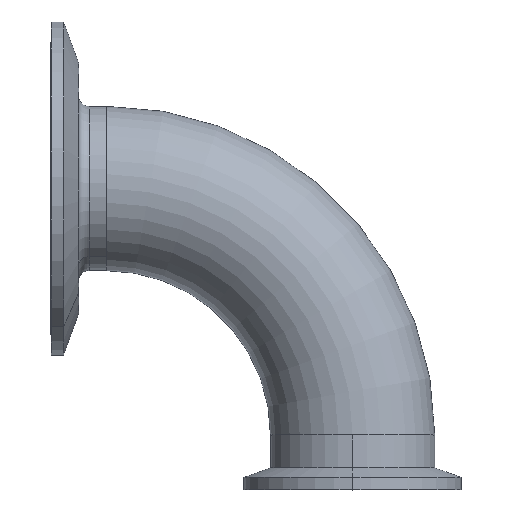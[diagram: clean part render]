
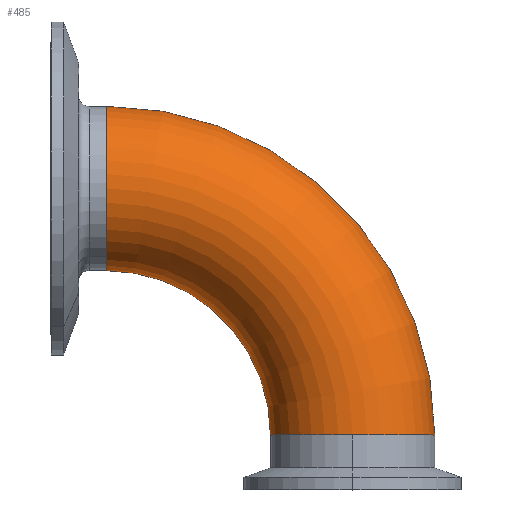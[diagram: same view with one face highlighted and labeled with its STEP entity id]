
A CAD part, top view. The second image highlights one B-rep face of the part: STEP entity #485.
In plain terms, the highlighted toroidal (fillet/blend) face has major radius 57.15 mm and minor radius 19.05 mm.
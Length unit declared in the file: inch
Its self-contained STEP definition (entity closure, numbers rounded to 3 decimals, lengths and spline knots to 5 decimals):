
#68 = CARTESIAN_POINT ( 'NONE',  ( 0., 0., 0. ) ) ;
#133 = AXIS2_PLACEMENT_3D ( 'NONE', #1221, #260, #1347 ) ;
#141 = DIRECTION ( 'NONE',  ( -1., 0., 0. ) ) ;
#152 = DIRECTION ( 'NONE',  ( 0., 0., -1. ) ) ;
#207 = FACE_OUTER_BOUND ( 'NONE', #264, .T. ) ;
#213 = AXIS2_PLACEMENT_3D ( 'NONE', #476, #1523, #658 ) ;
#217 = CARTESIAN_POINT ( 'NONE',  ( 1.5, 0., 0. ) ) ;
#260 = DIRECTION ( 'NONE',  ( -1., 0., 0. ) ) ;
#264 = EDGE_LOOP ( 'NONE', ( #1823, #277, #1831, #750 ) ) ;
#265 = VERTEX_POINT ( 'NONE', #1764 ) ;
#277 = ORIENTED_EDGE ( 'NONE', *, *, #1697, .F. ) ;
#285 = EDGE_CURVE ( 'NONE', #1485, #265, #740, .T. ) ;
#294 = DIRECTION ( 'NONE',  ( -1., 0., 0. ) ) ;
#300 = DIRECTION ( 'NONE',  ( 0., 0., -1. ) ) ;
#327 = CARTESIAN_POINT ( 'NONE',  ( 0., 0., 0. ) ) ;
#359 = DIRECTION ( 'NONE',  ( -1., 0., 0. ) ) ;
#365 = TOROIDAL_SURFACE ( 'NONE', #1722, 2.25, 0.75 ) ;
#366 = DIRECTION ( 'NONE',  ( 0., 0., -1. ) ) ;
#380 = CARTESIAN_POINT ( 'NONE',  ( 0., 0., 0. ) ) ;
#476 = CARTESIAN_POINT ( 'NONE',  ( 2.25, 0., 0. ) ) ;
#485 = ADVANCED_FACE ( 'NONE', ( #207 ), #365, .T. ) ;
#596 = AXIS2_PLACEMENT_3D ( 'NONE', #380, #366, #359 ) ;
#658 = DIRECTION ( 'NONE',  ( 0., 0., 1. ) ) ;
#740 = CIRCLE ( 'NONE', #1678, 3. ) ;
#750 = ORIENTED_EDGE ( 'NONE', *, *, #1045, .T. ) ;
#817 = EDGE_CURVE ( 'NONE', #1225, #1498, #1214, .T. ) ;
#855 = CIRCLE ( 'NONE', #213, 0.75 ) ;
#917 = CIRCLE ( 'NONE', #133, 0.75 ) ;
#999 = CARTESIAN_POINT ( 'NONE',  ( 0., 1.5, 0. ) ) ;
#1045 = EDGE_CURVE ( 'NONE', #1498, #265, #855, .T. ) ;
#1214 = CIRCLE ( 'NONE', #596, 1.5 ) ;
#1221 = CARTESIAN_POINT ( 'NONE',  ( 0., 2.25, 0. ) ) ;
#1225 = VERTEX_POINT ( 'NONE', #999 ) ;
#1347 = DIRECTION ( 'NONE',  ( 0., 0., 1. ) ) ;
#1485 = VERTEX_POINT ( 'NONE', #1822 ) ;
#1498 = VERTEX_POINT ( 'NONE', #217 ) ;
#1523 = DIRECTION ( 'NONE',  ( 0., 1., 0. ) ) ;
#1678 = AXIS2_PLACEMENT_3D ( 'NONE', #327, #300, #294 ) ;
#1697 = EDGE_CURVE ( 'NONE', #1225, #1485, #917, .T. ) ;
#1722 = AXIS2_PLACEMENT_3D ( 'NONE', #68, #152, #141 ) ;
#1764 = CARTESIAN_POINT ( 'NONE',  ( 3., 0., 0. ) ) ;
#1822 = CARTESIAN_POINT ( 'NONE',  ( 0., 3., 0. ) ) ;
#1823 = ORIENTED_EDGE ( 'NONE', *, *, #285, .F. ) ;
#1831 = ORIENTED_EDGE ( 'NONE', *, *, #817, .T. ) ;
